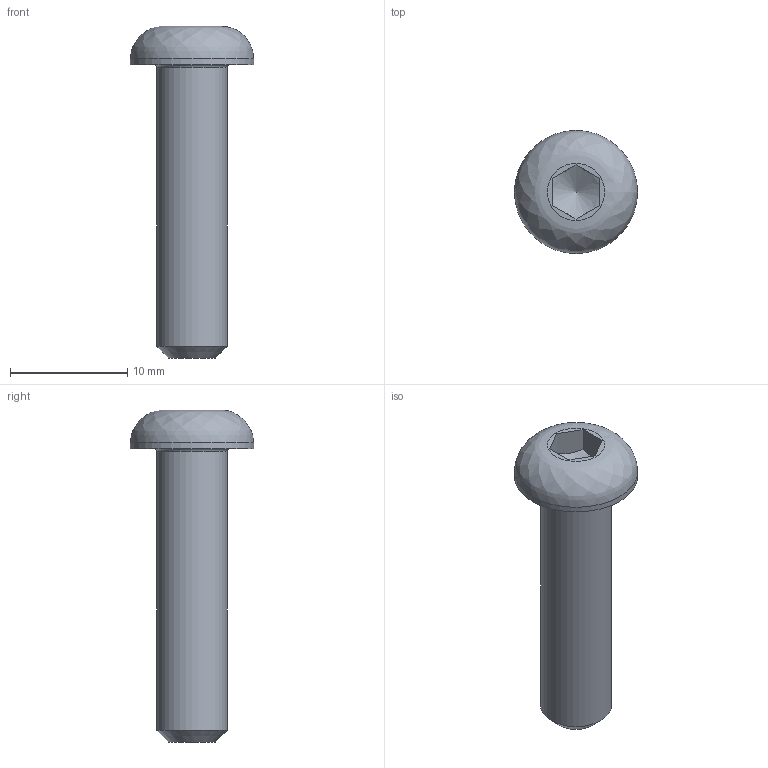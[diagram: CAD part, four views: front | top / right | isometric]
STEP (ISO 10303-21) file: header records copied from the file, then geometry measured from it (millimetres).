
FILE_DESCRIPTION(/* description */ (''),/* implementation_level */ '2;1');
FILE_NAME(/* name */ 'C:\Users\unitec\Documents\Inventor\各種小物\JIS\JIS B 1174 六角穴付きボタンボルト\BASE\M6\M6x25.stp',/* time_stamp */ '2015-07-21T18:23:25+09:00',/* author */ ('unitec'),/* organization */ (''),/* preprocessor_version */ 'ST-DEVELOPER v15.2',/* originating_system */ 'Autodesk Inventor 2014',/* authorisation */ '');
FILE_SCHEMA (('AUTOMOTIVE_DESIGN { 1 0 10303 214 3 1 1 }'));
Length unit declared in the file: millimetre
Products named in the file (1): M6x25
Bounding box: 10.5 x 10.5 x 28.3 mm (x, y, z)
Volume: 899.3 mm3; surface area: 728.3 mm2
Topology: 1 solids, 1 shells, 15 faces, 35 edges, 23 vertices
Faces by surface type: plane 9, cylinder 2, cone 2, torus 1, bspline 1
Full cylindrical faces by diameter (mm): 6 x1, 10.5 x1
Entity records: 423 total; most frequent: CARTESIAN_POINT 105, DIRECTION 60, ORIENTED_EDGE 56, EDGE_CURVE 28, AXIS2_PLACEMENT_3D 24, EDGE_LOOP 21, VERTEX_POINT 21, FACE_OUTER_BOUND 15
